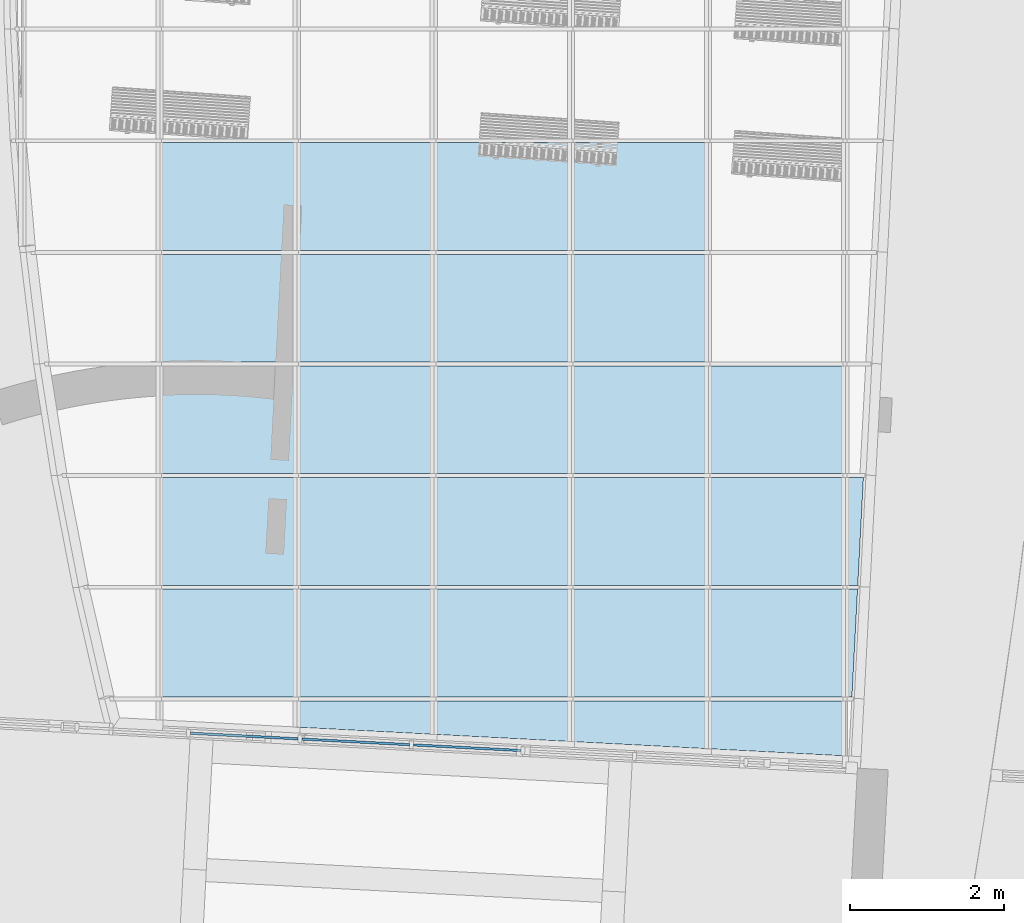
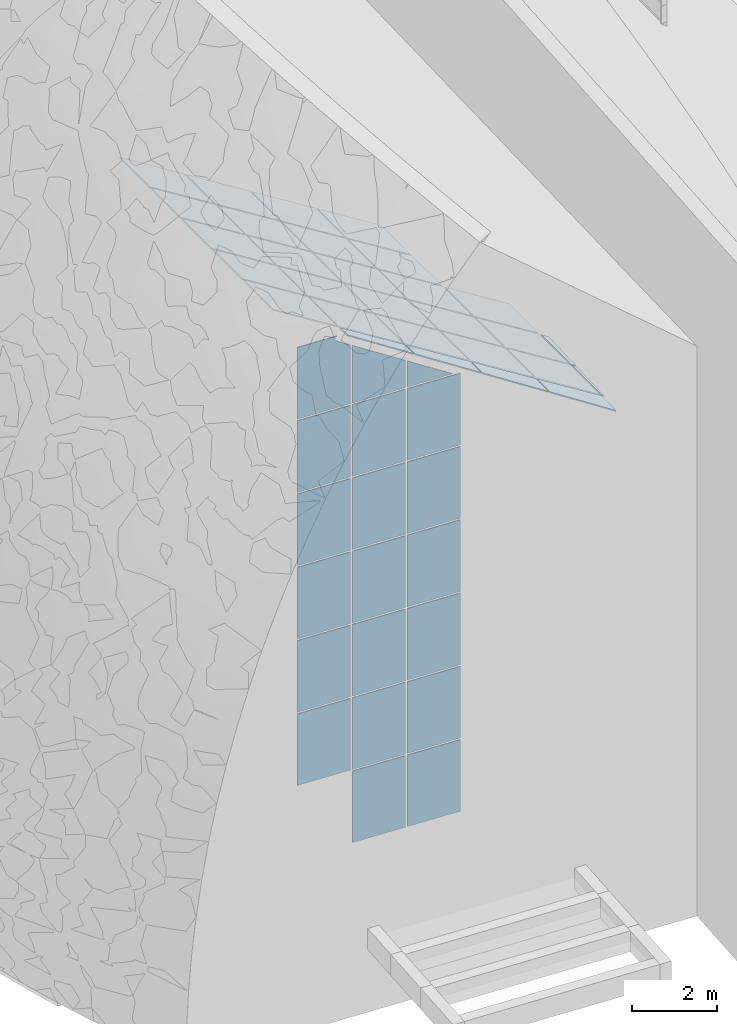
# One storey, part 36 of 82: 49 plates, 1 element without a shape of its own.
"""IFC2X3 building model written with IfcOpenShell, lengths in millimetres."""

from ifc_helpers import new_model, entity, si_unit, converted_unit, derived_unit, direction, frame, frame_2d, origin, place, context, subcontext, project, spatial, polyline, rectangle, outline, extrude, source, transform, mapped, material, layer, layer_set, layer_usage, type_object, type_shapes, element, aggregate, save


model = new_model("IFC2X3")

# Units and contexts
model_context = context("Model", 3, precision=0.01, world=origin(), true_north=direction((6.12303176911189e-17, 1.0)))
body_context = subcontext(model_context, "Body", "Model", "MODEL_VIEW")
ifc_project = project(units=[si_unit("LENGTHUNIT", "METRE", prefix="MILLI"), si_unit("AREAUNIT", "SQUARE_METRE"), si_unit("VOLUMEUNIT", "CUBIC_METRE"), converted_unit("PLANEANGLEUNIT", "DEGREE", entity("IfcRatioMeasure", 0.0174532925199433), si_unit("PLANEANGLEUNIT", "RADIAN"), dimensions=[0, 0, 0, 0, 0, 0, 0]), si_unit("MASSUNIT", "GRAM", prefix="KILO"), derived_unit("MASSDENSITYUNIT", [(si_unit("MASSUNIT", "GRAM", prefix="KILO"), 1), (si_unit("LENGTHUNIT", "METRE"), -3)]), si_unit("TIMEUNIT", "SECOND"), si_unit("FREQUENCYUNIT", "HERTZ"), si_unit("THERMODYNAMICTEMPERATUREUNIT", "DEGREE_CELSIUS"), derived_unit("THERMALTRANSMITTANCEUNIT", [(si_unit("MASSUNIT", "GRAM", prefix="KILO"), 1), (si_unit("THERMODYNAMICTEMPERATUREUNIT", "KELVIN"), -1), (si_unit("TIMEUNIT", "SECOND"), -3)]), derived_unit("VOLUMETRICFLOWRATEUNIT", [(si_unit("LENGTHUNIT", "METRE"), 3), (si_unit("TIMEUNIT", "SECOND"), -1)]), si_unit("ELECTRICCURRENTUNIT", "AMPERE"), si_unit("ELECTRICVOLTAGEUNIT", "VOLT"), si_unit("POWERUNIT", "WATT"), si_unit("FORCEUNIT", "NEWTON", prefix="KILO"), si_unit("ILLUMINANCEUNIT", "LUX"), si_unit("LUMINOUSFLUXUNIT", "LUMEN"), si_unit("LUMINOUSINTENSITYUNIT", "CANDELA"), derived_unit("USERDEFINED", [(si_unit("MASSUNIT", "GRAM", prefix="KILO"), -1), (si_unit("LENGTHUNIT", "METRE"), -2), (si_unit("TIMEUNIT", "SECOND"), 3), (si_unit("LUMINOUSFLUXUNIT", "LUMEN"), 1)]), derived_unit("LINEARVELOCITYUNIT", [(si_unit("LENGTHUNIT", "METRE"), 1), (si_unit("TIMEUNIT", "SECOND"), -1)]), si_unit("PRESSUREUNIT", "PASCAL"), derived_unit("USERDEFINED", [(si_unit("LENGTHUNIT", "METRE"), -2), (si_unit("MASSUNIT", "GRAM", prefix="KILO"), 1), (si_unit("TIMEUNIT", "SECOND"), -2)])], contexts=[model_context])

# Site, building, storey
site_placement = place(None, origin())
site = spatial("IfcSite", under=ifc_project, at=site_placement, Name="表面", CompositionType="ELEMENT")
building_placement = place(site_placement, origin())
building = spatial("IfcBuilding", under=site, at=building_placement, CompositionType="ELEMENT")
storey_placement = place(building_placement, origin())
storey = spatial("IfcBuildingStorey", under=building, at=storey_placement, Name="1F", CompositionType="ELEMENT", Elevation=0.0)

# Curtain wall, plates
curtain_wall_type = type_object("IfcCurtainWallType", Name="幕墙系统:1450 x 2100mm", PredefinedType="NOTDEFINED")
curtain_wall_placement = place(storey_placement, origin())
curtain_wall = element("IfcCurtainWall", 1, at=curtain_wall_placement, inside=storey, type_object=curtain_wall_type, Name="幕墙系统:1450 x 2100mm", ObjectType="幕墙系统:1450 x 2100mm")
ifc_material = material(Name="<Unnamed>")
ifc_layer = layer(ifc_material, 30.0)
ifc_layer_set = layer_set([ifc_layer], Name="幕墙系统:1450 x 2100mm")
ifc_layer_usage_1 = layer_usage(ifc_layer_set, "AXIS3", "POSITIVE", 0.0)
plate_type_1 = type_object("IfcPlateType", Name="玻璃", PredefinedType="CURTAIN_PANEL", material=ifc_layer_set)
shared_shape_1 = source(origin(), body_context, "Body", "SweptSolid", [
    extrude(rectangle(XDim=30.0, YDim=1400.0, at=frame_2d((0.0, 3.97903932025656e-13), x_axis=(1.0, 0.0))), frame((0.0, 0.0, 0.0), z_axis=(0.0, 0.0, 1.0), x_axis=(0.0, 1.0, 0.0)), (0.0, 0.0, 1.0), 2050.0),
])
type_shapes(plate_type_1, [shared_shape_1])
plate_1_placement = place(curtain_wall_placement, frame((-19940.3008154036, -24263.9031535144, 12156.2797786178), z_axis=(-0.848048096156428, 0.0, 0.529919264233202), x_axis=(0.0, -1.0, 0.0)))
plate_1 = element("IfcPlate", 2, at=plate_1_placement, type_object=plate_type_1, material=ifc_layer_usage_1, Name="系统嵌板:玻璃", ObjectType="玻璃", context=body_context, shape_type="MappedRepresentation", body=[
    mapped(shared_shape_1, transform((0.0, 0.0, 0.0), scale=1.0)),
])
ifc_layer_usage_2 = layer_usage(ifc_layer_set, "AXIS3", "POSITIVE", 0.0)
plate_2_placement = place(curtain_wall_placement, frame((-19940.3008154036, -25713.9031535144, 12156.2797786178), z_axis=(-0.848048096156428, 0.0, 0.529919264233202), x_axis=(0.0, -1.0, 0.0)))
plate_2 = element("IfcPlate", 3, at=plate_2_placement, type_object=plate_type_1, material=ifc_layer_usage_2, Name="系统嵌板:玻璃", ObjectType="玻璃", context=body_context, shape_type="MappedRepresentation", body=[
    mapped(shared_shape_1, transform((0.0, 0.0, 0.0), scale=1.0)),
])
ifc_layer_usage_3 = layer_usage(ifc_layer_set, "AXIS3", "POSITIVE", 0.0)
plate_3_placement = place(curtain_wall_placement, frame((-19940.3008154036, -27163.9031535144, 12156.2797786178), z_axis=(-0.848048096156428, 0.0, 0.529919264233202), x_axis=(0.0, -1.0, 0.0)))
plate_3 = element("IfcPlate", 4, at=plate_3_placement, type_object=plate_type_1, material=ifc_layer_usage_3, Name="系统嵌板:玻璃", ObjectType="玻璃", context=body_context, shape_type="MappedRepresentation", body=[
    mapped(shared_shape_1, transform((0.0, 0.0, 0.0), scale=1.0)),
])
ifc_layer_usage_4 = layer_usage(ifc_layer_set, "AXIS3", "POSITIVE", 0.0)
plate_4_placement = place(curtain_wall_placement, frame((-21721.201817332, -21363.9031535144, 13269.1102335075), z_axis=(-0.848048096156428, 0.0, 0.529919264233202), x_axis=(0.0, -1.0, 0.0)))
plate_4 = element("IfcPlate", 5, at=plate_4_placement, type_object=plate_type_1, material=ifc_layer_usage_4, Name="系统嵌板:玻璃", ObjectType="玻璃", context=body_context, shape_type="MappedRepresentation", body=[
    mapped(shared_shape_1, transform((0.0, 0.0, 0.0), scale=1.0)),
])
ifc_layer_usage_5 = layer_usage(ifc_layer_set, "AXIS3", "POSITIVE", 0.0)
plate_5_placement = place(curtain_wall_placement, frame((-21721.2018173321, -22813.9031535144, 13269.1102335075), z_axis=(-0.848048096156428, 0.0, 0.529919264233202), x_axis=(0.0, -1.0, 0.0)))
plate_5 = element("IfcPlate", 6, at=plate_5_placement, type_object=plate_type_1, material=ifc_layer_usage_5, Name="系统嵌板:玻璃", ObjectType="玻璃", context=body_context, shape_type="MappedRepresentation", body=[
    mapped(shared_shape_1, transform((0.0, 0.0, 0.0), scale=1.0)),
])
ifc_layer_usage_6 = layer_usage(ifc_layer_set, "AXIS3", "POSITIVE", 0.0)
plate_6_placement = place(curtain_wall_placement, frame((-21721.2018173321, -24263.9031535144, 13269.1102335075), z_axis=(-0.848048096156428, 0.0, 0.529919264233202), x_axis=(0.0, -1.0, 0.0)))
plate_6 = element("IfcPlate", 7, at=plate_6_placement, type_object=plate_type_1, material=ifc_layer_usage_6, Name="系统嵌板:玻璃", ObjectType="玻璃", context=body_context, shape_type="MappedRepresentation", body=[
    mapped(shared_shape_1, transform((0.0, 0.0, 0.0), scale=1.0)),
])
ifc_layer_usage_7 = layer_usage(ifc_layer_set, "AXIS3", "POSITIVE", 0.0)
plate_7_placement = place(curtain_wall_placement, frame((-21721.2018173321, -25713.9031535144, 13269.1102335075), z_axis=(-0.848048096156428, 0.0, 0.529919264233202), x_axis=(0.0, -1.0, 0.0)))
plate_7 = element("IfcPlate", 8, at=plate_7_placement, type_object=plate_type_1, material=ifc_layer_usage_7, Name="系统嵌板:玻璃", ObjectType="玻璃", context=body_context, shape_type="MappedRepresentation", body=[
    mapped(shared_shape_1, transform((0.0, 0.0, 0.0), scale=1.0)),
])
ifc_layer_usage_8 = layer_usage(ifc_layer_set, "AXIS3", "POSITIVE", 0.0)
plate_8_placement = place(curtain_wall_placement, frame((-21721.2018173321, -27163.9031535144, 13269.1102335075), z_axis=(-0.848048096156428, 0.0, 0.529919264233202), x_axis=(0.0, -1.0, 0.0)))
plate_8 = element("IfcPlate", 9, at=plate_8_placement, type_object=plate_type_1, material=ifc_layer_usage_8, Name="系统嵌板:玻璃", ObjectType="玻璃", context=body_context, shape_type="MappedRepresentation", body=[
    mapped(shared_shape_1, transform((0.0, 0.0, 0.0), scale=1.0)),
])
ifc_layer_usage_9 = layer_usage(ifc_layer_set, "AXIS3", "POSITIVE", 0.0)
plate_9_placement = place(curtain_wall_placement, frame((-23502.1028192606, -21363.9031535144, 14381.9406883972), z_axis=(-0.848048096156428, 0.0, 0.529919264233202), x_axis=(0.0, -1.0, 0.0)))
plate_9 = element("IfcPlate", 10, at=plate_9_placement, type_object=plate_type_1, material=ifc_layer_usage_9, Name="系统嵌板:玻璃", ObjectType="玻璃", context=body_context, shape_type="MappedRepresentation", body=[
    mapped(shared_shape_1, transform((0.0, 0.0, 0.0), scale=1.0)),
])
ifc_layer_usage_10 = layer_usage(ifc_layer_set, "AXIS3", "POSITIVE", 0.0)
plate_10_placement = place(curtain_wall_placement, frame((-23502.1028192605, -22813.9031535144, 14381.9406883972), z_axis=(-0.848048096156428, 0.0, 0.529919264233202), x_axis=(0.0, -1.0, 0.0)))
plate_10 = element("IfcPlate", 11, at=plate_10_placement, type_object=plate_type_1, material=ifc_layer_usage_10, Name="系统嵌板:玻璃", ObjectType="玻璃", context=body_context, shape_type="MappedRepresentation", body=[
    mapped(shared_shape_1, transform((0.0, 0.0, 0.0), scale=1.0)),
])
ifc_layer_usage_11 = layer_usage(ifc_layer_set, "AXIS3", "POSITIVE", 0.0)
plate_11_placement = place(curtain_wall_placement, frame((-23502.1028192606, -24263.9031535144, 14381.9406883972), z_axis=(-0.848048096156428, 0.0, 0.529919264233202), x_axis=(0.0, -1.0, 0.0)))
plate_11 = element("IfcPlate", 12, at=plate_11_placement, type_object=plate_type_1, material=ifc_layer_usage_11, Name="系统嵌板:玻璃", ObjectType="玻璃", context=body_context, shape_type="MappedRepresentation", body=[
    mapped(shared_shape_1, transform((0.0, 0.0, 0.0), scale=1.0)),
])
ifc_layer_usage_12 = layer_usage(ifc_layer_set, "AXIS3", "POSITIVE", 0.0)
plate_12_placement = place(curtain_wall_placement, frame((-23502.1028192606, -25713.9031535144, 14381.9406883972), z_axis=(-0.848048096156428, 0.0, 0.529919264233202), x_axis=(0.0, -1.0, 0.0)))
plate_12 = element("IfcPlate", 13, at=plate_12_placement, type_object=plate_type_1, material=ifc_layer_usage_12, Name="系统嵌板:玻璃", ObjectType="玻璃", context=body_context, shape_type="MappedRepresentation", body=[
    mapped(shared_shape_1, transform((0.0, 0.0, 0.0), scale=1.0)),
])
ifc_layer_usage_13 = layer_usage(ifc_layer_set, "AXIS3", "POSITIVE", 0.0)
plate_13_placement = place(curtain_wall_placement, frame((-23502.1028192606, -27163.9031535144, 14381.9406883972), z_axis=(-0.848048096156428, 0.0, 0.529919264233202), x_axis=(0.0, -1.0, 0.0)))
plate_13 = element("IfcPlate", 14, at=plate_13_placement, type_object=plate_type_1, material=ifc_layer_usage_13, Name="系统嵌板:玻璃", ObjectType="玻璃", context=body_context, shape_type="MappedRepresentation", body=[
    mapped(shared_shape_1, transform((0.0, 0.0, 0.0), scale=1.0)),
])
ifc_layer_usage_14 = layer_usage(ifc_layer_set, "AXIS3", "POSITIVE", 0.0)
plate_14_placement = place(curtain_wall_placement, frame((-25283.0038211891, -21363.9031535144, 15494.7711432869), z_axis=(-0.848048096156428, 0.0, 0.529919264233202), x_axis=(0.0, -1.0, 0.0)))
plate_14 = element("IfcPlate", 15, at=plate_14_placement, type_object=plate_type_1, material=ifc_layer_usage_14, Name="系统嵌板:玻璃", ObjectType="玻璃", context=body_context, shape_type="MappedRepresentation", body=[
    mapped(shared_shape_1, transform((0.0, 0.0, 0.0), scale=1.0)),
])
ifc_layer_usage_15 = layer_usage(ifc_layer_set, "AXIS3", "POSITIVE", 0.0)
plate_15_placement = place(curtain_wall_placement, frame((-25283.0038211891, -22813.9031535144, 15494.7711432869), z_axis=(-0.848048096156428, 0.0, 0.529919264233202), x_axis=(0.0, -1.0, 0.0)))
plate_15 = element("IfcPlate", 16, at=plate_15_placement, type_object=plate_type_1, material=ifc_layer_usage_15, Name="系统嵌板:玻璃", ObjectType="玻璃", context=body_context, shape_type="MappedRepresentation", body=[
    mapped(shared_shape_1, transform((0.0, 0.0, 0.0), scale=1.0)),
])
ifc_layer_usage_16 = layer_usage(ifc_layer_set, "AXIS3", "POSITIVE", 0.0)
plate_16_placement = place(curtain_wall_placement, frame((-25283.0038211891, -24263.9031535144, 15494.7711432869), z_axis=(-0.848048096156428, 0.0, 0.529919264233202), x_axis=(0.0, -1.0, 0.0)))
plate_16 = element("IfcPlate", 17, at=plate_16_placement, type_object=plate_type_1, material=ifc_layer_usage_16, Name="系统嵌板:玻璃", ObjectType="玻璃", context=body_context, shape_type="MappedRepresentation", body=[
    mapped(shared_shape_1, transform((0.0, 0.0, 0.0), scale=1.0)),
])
ifc_layer_usage_17 = layer_usage(ifc_layer_set, "AXIS3", "POSITIVE", 0.0)
plate_17_placement = place(curtain_wall_placement, frame((-25283.0038211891, -25713.9031535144, 15494.7711432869), z_axis=(-0.848048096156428, 0.0, 0.529919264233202), x_axis=(0.0, -1.0, 0.0)))
plate_17 = element("IfcPlate", 18, at=plate_17_placement, type_object=plate_type_1, material=ifc_layer_usage_17, Name="系统嵌板:玻璃", ObjectType="玻璃", context=body_context, shape_type="MappedRepresentation", body=[
    mapped(shared_shape_1, transform((0.0, 0.0, 0.0), scale=1.0)),
])
ifc_layer_usage_18 = layer_usage(ifc_layer_set, "AXIS3", "POSITIVE", 0.0)
plate_18_placement = place(curtain_wall_placement, frame((-25283.0038211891, -27163.9031535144, 15494.7711432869), z_axis=(-0.848048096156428, 0.0, 0.529919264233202), x_axis=(0.0, -1.0, 0.0)))
plate_18 = element("IfcPlate", 19, at=plate_18_placement, type_object=plate_type_1, material=ifc_layer_usage_18, Name="系统嵌板:玻璃", ObjectType="玻璃", context=body_context, shape_type="MappedRepresentation", body=[
    mapped(shared_shape_1, transform((0.0, 0.0, 0.0), scale=1.0)),
])
ifc_layer_usage_19 = layer_usage(ifc_layer_set, "AXIS3", "POSITIVE", 0.0)
plate_19_placement = place(curtain_wall_placement, frame((-27063.9048231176, -21363.9031535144, 16607.6015981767), z_axis=(-0.848048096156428, 0.0, 0.529919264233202), x_axis=(0.0, -1.0, 0.0)))
plate_19 = element("IfcPlate", 20, at=plate_19_placement, type_object=plate_type_1, material=ifc_layer_usage_19, Name="系统嵌板:玻璃", ObjectType="玻璃", context=body_context, shape_type="MappedRepresentation", body=[
    mapped(shared_shape_1, transform((0.0, 0.0, 0.0), scale=1.0)),
])
ifc_layer_usage_20 = layer_usage(ifc_layer_set, "AXIS3", "POSITIVE", 0.0)
plate_20_placement = place(curtain_wall_placement, frame((-27063.9048231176, -22813.9031535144, 16607.6015981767), z_axis=(-0.848048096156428, 0.0, 0.529919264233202), x_axis=(0.0, -1.0, 0.0)))
plate_20 = element("IfcPlate", 21, at=plate_20_placement, type_object=plate_type_1, material=ifc_layer_usage_20, Name="系统嵌板:玻璃", ObjectType="玻璃", context=body_context, shape_type="MappedRepresentation", body=[
    mapped(shared_shape_1, transform((0.0, 0.0, 0.0), scale=1.0)),
])
ifc_layer_usage_21 = layer_usage(ifc_layer_set, "AXIS3", "POSITIVE", 0.0)
plate_21_placement = place(curtain_wall_placement, frame((-27063.9048231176, -24263.9031535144, 16607.6015981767), z_axis=(-0.848048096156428, 0.0, 0.529919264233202), x_axis=(0.0, -1.0, 0.0)))
plate_21 = element("IfcPlate", 22, at=plate_21_placement, type_object=plate_type_1, material=ifc_layer_usage_21, Name="系统嵌板:玻璃", ObjectType="玻璃", context=body_context, shape_type="MappedRepresentation", body=[
    mapped(shared_shape_1, transform((0.0, 0.0, 0.0), scale=1.0)),
])
ifc_layer_usage_22 = layer_usage(ifc_layer_set, "AXIS3", "POSITIVE", 0.0)
plate_22_placement = place(curtain_wall_placement, frame((-27063.9048231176, -25713.9031535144, 16607.6015981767), z_axis=(-0.848048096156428, 0.0, 0.529919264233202), x_axis=(0.0, -1.0, 0.0)))
plate_22 = element("IfcPlate", 23, at=plate_22_placement, type_object=plate_type_1, material=ifc_layer_usage_22, Name="系统嵌板:玻璃", ObjectType="玻璃", context=body_context, shape_type="MappedRepresentation", body=[
    mapped(shared_shape_1, transform((0.0, 0.0, 0.0), scale=1.0)),
])
ifc_layer_usage_23 = layer_usage(ifc_layer_set, "AXIS3", "POSITIVE", 0.0)
plate_23_placement = place(curtain_wall_placement, frame((-27063.9048231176, -27163.9031535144, 16607.6015981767), z_axis=(-0.848048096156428, 0.0, 0.529919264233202), x_axis=(0.0, -1.0, 0.0)))
plate_23 = element("IfcPlate", 24, at=plate_23_placement, type_object=plate_type_1, material=ifc_layer_usage_23, Name="系统嵌板:玻璃", ObjectType="玻璃", context=body_context, shape_type="MappedRepresentation", body=[
    mapped(shared_shape_1, transform((0.0, 0.0, 0.0), scale=1.0)),
])
ifc_layer_usage_24 = layer_usage(ifc_layer_set, "AXIS3", "POSITIVE", 0.0)
plate_24_placement = place(curtain_wall_placement, frame((-24828.6581434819, -28521.9109431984, 2125.0), z_axis=(0.0, 0.0, 1.0), x_axis=(-0.998629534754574, 0.0523359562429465, 0.0)))
plate_24 = element("IfcPlate", 25, at=plate_24_placement, type_object=plate_type_1, material=ifc_layer_usage_24, Name="系统嵌板:玻璃", ObjectType="玻璃", context=body_context, shape_type="MappedRepresentation", body=[
    mapped(shared_shape_1, transform((0.0, 0.0, 0.0), scale=1.0)),
])
ifc_layer_usage_25 = layer_usage(ifc_layer_set, "AXIS3", "POSITIVE", 0.0)
plate_25_placement = place(curtain_wall_placement, frame((-26276.670968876, -28446.0238066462, 2125.0), z_axis=(0.0, 0.0, 1.0), x_axis=(-0.998629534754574, 0.0523359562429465, 0.0)))
plate_25 = element("IfcPlate", 26, at=plate_25_placement, type_object=plate_type_1, material=ifc_layer_usage_25, Name="系统嵌板:玻璃", ObjectType="玻璃", context=body_context, shape_type="MappedRepresentation", body=[
    mapped(shared_shape_1, transform((0.0, 0.0, 0.0), scale=1.0)),
])
ifc_layer_usage_26 = layer_usage(ifc_layer_set, "AXIS3", "POSITIVE", 0.0)
plate_26_placement = place(curtain_wall_placement, frame((-24828.6581434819, -28521.9109431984, 4225.0), z_axis=(0.0, 0.0, 1.0), x_axis=(-0.998629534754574, 0.0523359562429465, 0.0)))
plate_26 = element("IfcPlate", 27, at=plate_26_placement, type_object=plate_type_1, material=ifc_layer_usage_26, Name="系统嵌板:玻璃", ObjectType="玻璃", context=body_context, shape_type="MappedRepresentation", body=[
    mapped(shared_shape_1, transform((0.0, 0.0, 0.0), scale=1.0)),
])
ifc_layer_usage_27 = layer_usage(ifc_layer_set, "AXIS3", "POSITIVE", 0.0)
plate_27_placement = place(curtain_wall_placement, frame((-26276.670968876, -28446.0238066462, 4225.0), z_axis=(0.0, 0.0, 1.0), x_axis=(-0.998629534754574, 0.0523359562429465, 0.0)))
plate_27 = element("IfcPlate", 28, at=plate_27_placement, type_object=plate_type_1, material=ifc_layer_usage_27, Name="系统嵌板:玻璃", ObjectType="玻璃", context=body_context, shape_type="MappedRepresentation", body=[
    mapped(shared_shape_1, transform((0.0, 0.0, 0.0), scale=1.0)),
])
ifc_layer_usage_28 = layer_usage(ifc_layer_set, "AXIS3", "POSITIVE", 0.0)
plate_28_placement = place(curtain_wall_placement, frame((-27724.6837942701, -28370.1366700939, 4225.0), z_axis=(0.0, 0.0, 1.0), x_axis=(-0.998629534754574, 0.0523359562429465, 0.0)))
plate_28 = element("IfcPlate", 29, at=plate_28_placement, type_object=plate_type_1, material=ifc_layer_usage_28, Name="系统嵌板:玻璃", ObjectType="玻璃", context=body_context, shape_type="MappedRepresentation", body=[
    mapped(shared_shape_1, transform((0.0, 0.0, 0.0), scale=1.0)),
])
ifc_layer_usage_29 = layer_usage(ifc_layer_set, "AXIS3", "POSITIVE", 0.0)
plate_29_placement = place(curtain_wall_placement, frame((-24828.6581434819, -28521.9109431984, 6325.0), z_axis=(0.0, 0.0, 1.0), x_axis=(-0.998629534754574, 0.0523359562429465, 0.0)))
plate_29 = element("IfcPlate", 30, at=plate_29_placement, type_object=plate_type_1, material=ifc_layer_usage_29, Name="系统嵌板:玻璃", ObjectType="玻璃", context=body_context, shape_type="MappedRepresentation", body=[
    mapped(shared_shape_1, transform((0.0, 0.0, 0.0), scale=1.0)),
])
ifc_layer_usage_30 = layer_usage(ifc_layer_set, "AXIS3", "POSITIVE", 0.0)
plate_30_placement = place(curtain_wall_placement, frame((-26276.670968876, -28446.0238066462, 6325.0), z_axis=(0.0, 0.0, 1.0), x_axis=(-0.998629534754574, 0.0523359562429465, 0.0)))
plate_30 = element("IfcPlate", 31, at=plate_30_placement, type_object=plate_type_1, material=ifc_layer_usage_30, Name="系统嵌板:玻璃", ObjectType="玻璃", context=body_context, shape_type="MappedRepresentation", body=[
    mapped(shared_shape_1, transform((0.0, 0.0, 0.0), scale=1.0)),
])
ifc_layer_usage_31 = layer_usage(ifc_layer_set, "AXIS3", "POSITIVE", 0.0)
plate_31_placement = place(curtain_wall_placement, frame((-27724.6837942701, -28370.1366700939, 6325.0), z_axis=(0.0, 0.0, 1.0), x_axis=(-0.998629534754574, 0.0523359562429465, 0.0)))
plate_31 = element("IfcPlate", 32, at=plate_31_placement, type_object=plate_type_1, material=ifc_layer_usage_31, Name="系统嵌板:玻璃", ObjectType="玻璃", context=body_context, shape_type="MappedRepresentation", body=[
    mapped(shared_shape_1, transform((0.0, 0.0, 0.0), scale=1.0)),
])
ifc_layer_usage_32 = layer_usage(ifc_layer_set, "AXIS3", "POSITIVE", 0.0)
plate_32_placement = place(curtain_wall_placement, frame((-24828.6581434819, -28521.9109431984, 8425.0), z_axis=(0.0, 0.0, 1.0), x_axis=(-0.998629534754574, 0.0523359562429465, 0.0)))
plate_32 = element("IfcPlate", 33, at=plate_32_placement, type_object=plate_type_1, material=ifc_layer_usage_32, Name="系统嵌板:玻璃", ObjectType="玻璃", context=body_context, shape_type="MappedRepresentation", body=[
    mapped(shared_shape_1, transform((0.0, 0.0, 0.0), scale=1.0)),
])
ifc_layer_usage_33 = layer_usage(ifc_layer_set, "AXIS3", "POSITIVE", 0.0)
plate_33_placement = place(curtain_wall_placement, frame((-26276.670968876, -28446.0238066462, 8425.0), z_axis=(0.0, 0.0, 1.0), x_axis=(-0.998629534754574, 0.0523359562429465, 0.0)))
plate_33 = element("IfcPlate", 34, at=plate_33_placement, type_object=plate_type_1, material=ifc_layer_usage_33, Name="系统嵌板:玻璃", ObjectType="玻璃", context=body_context, shape_type="MappedRepresentation", body=[
    mapped(shared_shape_1, transform((0.0, 0.0, 0.0), scale=1.0)),
])
ifc_layer_usage_34 = layer_usage(ifc_layer_set, "AXIS3", "POSITIVE", 0.0)
plate_34_placement = place(curtain_wall_placement, frame((-27724.6837942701, -28370.1366700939, 8425.0), z_axis=(0.0, 0.0, 1.0), x_axis=(-0.998629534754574, 0.0523359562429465, 0.0)))
plate_34 = element("IfcPlate", 35, at=plate_34_placement, type_object=plate_type_1, material=ifc_layer_usage_34, Name="系统嵌板:玻璃", ObjectType="玻璃", context=body_context, shape_type="MappedRepresentation", body=[
    mapped(shared_shape_1, transform((0.0, 0.0, 0.0), scale=1.0)),
])
ifc_layer_usage_35 = layer_usage(ifc_layer_set, "AXIS3", "POSITIVE", 0.0)
plate_35_placement = place(curtain_wall_placement, frame((-24828.6581434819, -28521.9109431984, 10525.0), z_axis=(0.0, 0.0, 1.0), x_axis=(-0.998629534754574, 0.0523359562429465, 0.0)))
plate_35 = element("IfcPlate", 36, at=plate_35_placement, type_object=plate_type_1, material=ifc_layer_usage_35, Name="系统嵌板:玻璃", ObjectType="玻璃", context=body_context, shape_type="MappedRepresentation", body=[
    mapped(shared_shape_1, transform((0.0, 0.0, 0.0), scale=1.0)),
])
ifc_layer_usage_36 = layer_usage(ifc_layer_set, "AXIS3", "POSITIVE", 0.0)
plate_36_placement = place(curtain_wall_placement, frame((-26276.670968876, -28446.0238066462, 10525.0), z_axis=(0.0, 0.0, 1.0), x_axis=(-0.998629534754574, 0.0523359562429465, 0.0)))
plate_36 = element("IfcPlate", 37, at=plate_36_placement, type_object=plate_type_1, material=ifc_layer_usage_36, Name="系统嵌板:玻璃", ObjectType="玻璃", context=body_context, shape_type="MappedRepresentation", body=[
    mapped(shared_shape_1, transform((0.0, 0.0, 0.0), scale=1.0)),
])
ifc_layer_usage_37 = layer_usage(ifc_layer_set, "AXIS3", "POSITIVE", 0.0)
plate_37_placement = place(curtain_wall_placement, frame((-27724.6837942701, -28370.1366700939, 10525.0), z_axis=(0.0, 0.0, 1.0), x_axis=(-0.998629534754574, 0.0523359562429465, 0.0)))
plate_37 = element("IfcPlate", 38, at=plate_37_placement, type_object=plate_type_1, material=ifc_layer_usage_37, Name="系统嵌板:玻璃", ObjectType="玻璃", context=body_context, shape_type="MappedRepresentation", body=[
    mapped(shared_shape_1, transform((0.0, 0.0, 0.0), scale=1.0)),
])
ifc_layer_usage_38 = layer_usage(ifc_layer_set, "AXIS3", "POSITIVE", 0.0)
plate_38_placement = place(curtain_wall_placement, frame((-24828.6581434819, -28521.9109431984, 12625.0), z_axis=(0.0, 0.0, 1.0), x_axis=(-0.998629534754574, 0.0523359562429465, 0.0)))
plate_38 = element("IfcPlate", 39, at=plate_38_placement, type_object=plate_type_1, material=ifc_layer_usage_38, Name="系统嵌板:玻璃", ObjectType="玻璃", context=body_context, shape_type="MappedRepresentation", body=[
    mapped(shared_shape_1, transform((0.0, 0.0, 0.0), scale=1.0)),
])
ifc_layer_usage_39 = layer_usage(ifc_layer_set, "AXIS3", "POSITIVE", 0.0)
plate_39_placement = place(curtain_wall_placement, frame((-26276.670968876, -28446.0238066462, 12625.0), z_axis=(0.0, 0.0, 1.0), x_axis=(-0.998629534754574, 0.0523359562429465, 0.0)))
plate_39 = element("IfcPlate", 40, at=plate_39_placement, type_object=plate_type_1, material=ifc_layer_usage_39, Name="系统嵌板:玻璃", ObjectType="玻璃", context=body_context, shape_type="MappedRepresentation", body=[
    mapped(shared_shape_1, transform((0.0, 0.0, 0.0), scale=1.0)),
])
ifc_layer_usage_40 = layer_usage(ifc_layer_set, "AXIS3", "POSITIVE", 0.0)
plate_40_placement = place(curtain_wall_placement, frame((-27724.6837942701, -28370.1366700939, 12625.0), z_axis=(0.0, 0.0, 1.0), x_axis=(-0.998629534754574, 0.0523359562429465, 0.0)))
plate_40 = element("IfcPlate", 41, at=plate_40_placement, type_object=plate_type_1, material=ifc_layer_usage_40, Name="系统嵌板:玻璃", ObjectType="玻璃", context=body_context, shape_type="MappedRepresentation", body=[
    mapped(shared_shape_1, transform((0.0, 0.0, 0.0), scale=1.0)),
])
ifc_layer_usage_41 = layer_usage(ifc_layer_set, "AXIS3", "POSITIVE", 0.0)
plate_type_2 = type_object("IfcPlateType", Name="玻璃", PredefinedType="CURTAIN_PANEL", material=ifc_layer_set)
shared_shape_2 = source(origin(), body_context, "Body", "SweptSolid", [
    extrude(outline(polyline([(-144.029201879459, -700.0), (100.770516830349, -700.0), (100.77051683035, 700.0), (-57.5118317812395, 700.0), (-144.029201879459, -700.0)])), frame((0.0, -15.0, 144.029201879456), z_axis=(0.0, 1.0, 0.0), x_axis=(0.0, 0.0, 1.0)), (0.0, 0.0, 1.0), 30.0),
])
type_shapes(plate_type_2, [shared_shape_2])
plate_41_placement = place(curtain_wall_placement, frame((-19690.2964752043, -25713.9031535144, 12000.0597285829), z_axis=(-0.848048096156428, 0.0, 0.529919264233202), x_axis=(0.0, -1.0, 0.0)))
plate_41 = element("IfcPlate", 42, at=plate_41_placement, type_object=plate_type_2, material=ifc_layer_usage_41, Name="系统嵌板:玻璃", ObjectType="玻璃", context=body_context, shape_type="MappedRepresentation", body=[
    mapped(shared_shape_2, transform((0.0, 0.0, 0.0), scale=1.0)),
])
ifc_layer_usage_42 = layer_usage(ifc_layer_set, "AXIS3", "POSITIVE", 0.0)
plate_type_3 = type_object("IfcPlateType", Name="玻璃", PredefinedType="CURTAIN_PANEL", material=ifc_layer_set)
shared_shape_3 = source(origin(), body_context, "Body", "SweptSolid", [
    extrude(outline(polyline([(-99.2255637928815, -700.0), (55.9668787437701, -700.0), (55.9668787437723, 700.0), (-12.7081936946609, 700.0), (-99.2255637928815, -700.0)])), frame((0.0, -15.0, 99.2255637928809), z_axis=(0.0, 1.0, 0.0), x_axis=(0.0, 0.0, 1.0)), (0.0, 0.0, 1.0), 30.0),
])
type_shapes(plate_type_3, [shared_shape_3])
plate_42_placement = place(curtain_wall_placement, frame((-19766.2877551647, -27163.9031535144, 12047.5443504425), z_axis=(-0.848048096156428, 0.0, 0.529919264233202), x_axis=(0.0, -1.0, 0.0)))
plate_42 = element("IfcPlate", 43, at=plate_42_placement, type_object=plate_type_3, material=ifc_layer_usage_42, Name="系统嵌板:玻璃", ObjectType="玻璃", context=body_context, shape_type="MappedRepresentation", body=[
    mapped(shared_shape_3, transform((0.0, 0.0, 0.0), scale=1.0)),
])
ifc_layer_usage_43 = layer_usage(ifc_layer_set, "AXIS3", "POSITIVE", 0.0)
plate_type_4 = type_object("IfcPlateType", Name="玻璃", PredefinedType="CURTAIN_PANEL", material=ifc_layer_set)
shared_shape_4 = source(origin(), body_context, "Body", "SweptSolid", [
    extrude(outline(polyline([(-1025.0, -334.246120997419), (1025.0, -334.246120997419), (1025.0, 288.690695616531), (-1025.0, 379.801546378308), (-1025.0, -334.246120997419)])), frame((-22.7777126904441, -15.0, 1025.0), z_axis=(0.0, 1.0, 0.0), x_axis=(0.0, 0.0, 1.0)), (0.0, 0.0, 1.0), 30.0),
])
type_shapes(plate_type_4, [shared_shape_4])
plate_43_placement = place(curtain_wall_placement, frame((-19940.3008154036, -28270.9269872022, 12156.2797786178), z_axis=(-0.848048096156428, 0.0, 0.529919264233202), x_axis=(0.0, -1.0, 0.0)))
plate_43 = element("IfcPlate", 44, at=plate_43_placement, type_object=plate_type_4, material=ifc_layer_usage_43, Name="系统嵌板:玻璃", ObjectType="玻璃", context=body_context, shape_type="MappedRepresentation", body=[
    mapped(shared_shape_4, transform((0.0, 0.0, 0.0), scale=1.0)),
])
ifc_layer_usage_44 = layer_usage(ifc_layer_set, "AXIS3", "POSITIVE", 0.0)
plate_type_5 = type_object("IfcPlateType", Name="玻璃", PredefinedType="CURTAIN_PANEL", material=ifc_layer_set)
shared_shape_5 = source(origin(), body_context, "Body", "SweptSolid", [
    extrude(outline(polyline([(-1025.0, -287.579587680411), (1025.0, -287.579587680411), (1025.0, 242.024162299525), (-1025.0, 333.135013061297), (-1025.0, -287.579587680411)])), frame((-22.7777126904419, -15.0, 1025.0), z_axis=(0.0, 1.0, 0.0), x_axis=(0.0, 0.0, 1.0)), (0.0, 0.0, 1.0), 30.0),
])
type_shapes(plate_type_5, [shared_shape_5])
plate_44_placement = place(curtain_wall_placement, frame((-21721.2018173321, -28224.2604538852, 13269.1102335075), z_axis=(-0.848048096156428, 0.0, 0.529919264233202), x_axis=(0.0, -1.0, 0.0)))
plate_44 = element("IfcPlate", 45, at=plate_44_placement, type_object=plate_type_5, material=ifc_layer_usage_44, Name="系统嵌板:玻璃", ObjectType="玻璃", context=body_context, shape_type="MappedRepresentation", body=[
    mapped(shared_shape_5, transform((0.0, 0.0, 0.0), scale=1.0)),
])
ifc_layer_usage_45 = layer_usage(ifc_layer_set, "AXIS3", "POSITIVE", 0.0)
plate_type_6 = type_object("IfcPlateType", Name="玻璃", PredefinedType="CURTAIN_PANEL", material=ifc_layer_set)
shared_shape_6 = source(origin(), body_context, "Body", "SweptSolid", [
    extrude(outline(polyline([(-1025.0, -240.913054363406), (1025.0, -240.913054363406), (1025.0, 195.35762898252), (-1025.0, 286.468479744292), (-1025.0, -240.913054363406)])), frame((-22.7777126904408, -15.0, 1025.0), z_axis=(0.0, 1.0, 0.0), x_axis=(0.0, 0.0, 1.0)), (0.0, 0.0, 1.0), 30.0),
])
type_shapes(plate_type_6, [shared_shape_6])
plate_45_placement = place(curtain_wall_placement, frame((-23502.1028192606, -28177.5939205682, 14381.9406883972), z_axis=(-0.848048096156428, 0.0, 0.529919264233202), x_axis=(0.0, -1.0, 0.0)))
plate_45 = element("IfcPlate", 46, at=plate_45_placement, type_object=plate_type_6, material=ifc_layer_usage_45, Name="系统嵌板:玻璃", ObjectType="玻璃", context=body_context, shape_type="MappedRepresentation", body=[
    mapped(shared_shape_6, transform((0.0, 0.0, 0.0), scale=1.0)),
])
ifc_layer_usage_46 = layer_usage(ifc_layer_set, "AXIS3", "POSITIVE", 0.0)
plate_type_7 = type_object("IfcPlateType", Name="玻璃", PredefinedType="CURTAIN_PANEL", material=ifc_layer_set)
shared_shape_7 = source(origin(), body_context, "Body", "SweptSolid", [
    extrude(outline(polyline([(-1025.0, -194.246521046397), (1025.0, -194.246521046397), (1025.0, 148.691095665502), (-1025.0, 239.801946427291), (-1025.0, -194.246521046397)])), frame((-22.7777126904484, -15.0, 1025.0), z_axis=(0.0, 1.0, 0.0), x_axis=(0.0, 0.0, 1.0)), (0.0, 0.0, 1.0), 30.0),
])
type_shapes(plate_type_7, [shared_shape_7])
plate_46_placement = place(curtain_wall_placement, frame((-25283.0038211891, -28130.9273872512, 15494.7711432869), z_axis=(-0.848048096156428, 0.0, 0.529919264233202), x_axis=(0.0, -1.0, 0.0)))
plate_46 = element("IfcPlate", 47, at=plate_46_placement, type_object=plate_type_7, material=ifc_layer_usage_46, Name="系统嵌板:玻璃", ObjectType="玻璃", context=body_context, shape_type="MappedRepresentation", body=[
    mapped(shared_shape_7, transform((0.0, 0.0, 0.0), scale=1.0)),
])
ifc_layer_usage_47 = layer_usage(ifc_layer_set, "AXIS3", "POSITIVE", 0.0)
plate_type_8 = type_object("IfcPlateType", Name="玻璃", PredefinedType="CURTAIN_PANEL", material=ifc_layer_set)
shared_shape_8 = source(origin(), body_context, "Body", "SweptSolid", [
    extrude(outline(polyline([(-807.644526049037, -210.924214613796), (601.251437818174, -210.924214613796), (206.393088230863, 421.848429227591), (-807.644526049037, -210.924214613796)])), frame((199.211884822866, -15.0, 248.621607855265), z_axis=(0.0, 1.0, 0.0), x_axis=(0.848374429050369, 0.0, 0.529396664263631)), (0.0, 0.0, 1.0), 30.0),
])
type_shapes(plate_type_8, [shared_shape_8])
plate_47_placement = place(curtain_wall_placement, frame((-24930.8822022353, -28516.5536072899, 14725.0), z_axis=(0.0, 0.0, 1.0), x_axis=(-0.998629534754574, 0.0523359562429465, 0.0)))
plate_47 = element("IfcPlate", 48, at=plate_47_placement, type_object=plate_type_8, material=ifc_layer_usage_47, Name="系统嵌板:玻璃", ObjectType="玻璃", context=body_context, shape_type="MappedRepresentation", body=[
    mapped(shared_shape_8, transform((0.0, 0.0, 0.0), scale=1.0)),
])
ifc_layer_usage_48 = layer_usage(ifc_layer_set, "AXIS3", "POSITIVE", 0.0)
plate_type_9 = type_object("IfcPlateType", Name="玻璃", PredefinedType="CURTAIN_PANEL", material=ifc_layer_set)
shared_shape_9 = source(origin(), body_context, "Body", "SweptSolid", [
    extrude(outline(polyline([(-606.937283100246, -700.0), (170.12818997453, -700.0), (1043.74637622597, 700.0), (-606.93728310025, 700.0), (-606.937283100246, -700.0)])), frame((0.0, -15.0, 606.937283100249), z_axis=(0.0, 1.0, 0.0), x_axis=(0.0, 0.0, 1.0)), (0.0, 0.0, 1.0), 30.0),
])
type_shapes(plate_type_9, [shared_shape_9])
plate_48_placement = place(curtain_wall_placement, frame((-26276.670968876, -28446.0238066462, 14725.0), z_axis=(0.0, 0.0, 1.0), x_axis=(-0.998629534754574, 0.0523359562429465, 0.0)))
plate_48 = element("IfcPlate", 49, at=plate_48_placement, type_object=plate_type_9, material=ifc_layer_usage_48, Name="系统嵌板:玻璃", ObjectType="玻璃", context=body_context, shape_type="MappedRepresentation", body=[
    mapped(shared_shape_9, transform((0.0, 0.0, 0.0), scale=1.0)),
])
ifc_layer_usage_49 = layer_usage(ifc_layer_set, "AXIS3", "POSITIVE", 0.0)
plate_type_10 = type_object("IfcPlateType", Name="玻璃", PredefinedType="CURTAIN_PANEL", material=ifc_layer_set)
shared_shape_10 = source(origin(), body_context, "Body", "SweptSolid", [
    extrude(outline(polyline([(-1288.27135741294, -595.447771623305), (393.612951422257, -595.447771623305), (659.472478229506, -169.399706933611), (761.728642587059, -248.809206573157), (761.728642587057, 804.552228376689), (-1288.27135741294, 804.55222837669), (-1288.27135741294, -595.447771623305)])), frame((-104.552228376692, -15.0, 1288.27135741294), z_axis=(0.0, 1.0, 0.0), x_axis=(0.0, 0.0, 1.0)), (0.0, 0.0, 1.0), 30.0),
])
type_shapes(plate_type_10, [shared_shape_10])
plate_49_placement = place(curtain_wall_placement, frame((-27724.6837942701, -28370.1366700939, 14725.0), z_axis=(0.0, 0.0, 1.0), x_axis=(-0.998629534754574, 0.0523359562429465, 0.0)))
plate_49 = element("IfcPlate", 50, at=plate_49_placement, type_object=plate_type_10, material=ifc_layer_usage_49, Name="系统嵌板:玻璃", ObjectType="玻璃", context=body_context, shape_type="MappedRepresentation", body=[
    mapped(shared_shape_10, transform((0.0, 0.0, 0.0), scale=1.0)),
])
aggregate(curtain_wall, [plate_41, plate_42, plate_1, plate_2, plate_3, plate_43, plate_4, plate_5, plate_6, plate_7, plate_8, plate_44, plate_9, plate_10, plate_11, plate_12, plate_13, plate_45, plate_14, plate_15, plate_16, plate_17, plate_18, plate_46, plate_19, plate_20, plate_21, plate_22, plate_23, plate_24, plate_25, plate_26, plate_27, plate_28, plate_29, plate_30, plate_31, plate_32, plate_33, plate_34, plate_35, plate_36, plate_37, plate_38, plate_39, plate_40, plate_47, plate_48, plate_49])

save(model, "model.ifc")
